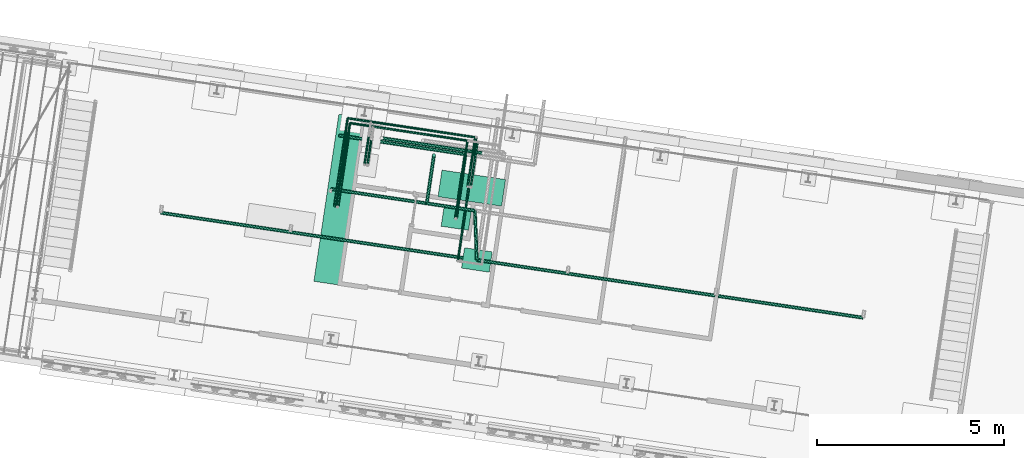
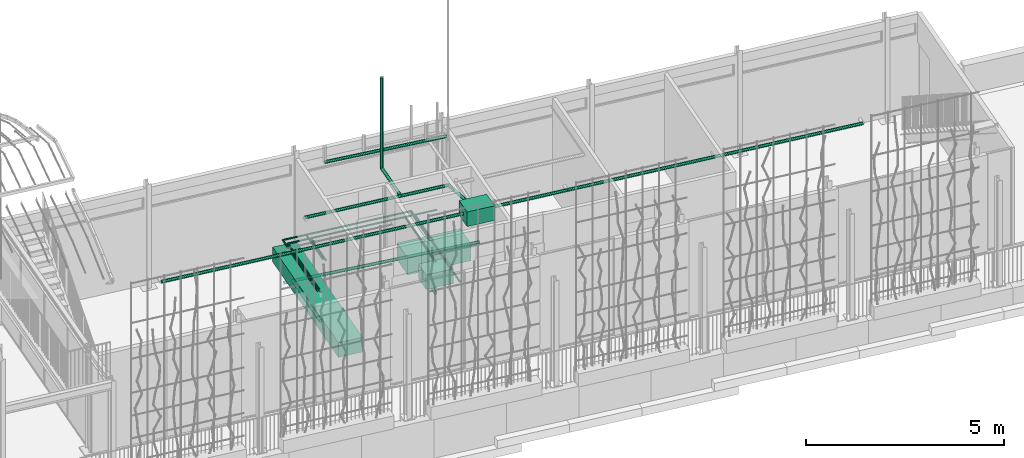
# One storey, part 136 of 142: 18 pipe segments, 10 duct segments, 3 sanitary terminals, 1 air to air heat recovery element.
"""IFC4 building model written with IfcOpenShell, lengths in metres."""

from ifc_helpers import new_model, si_unit, direction, frame, origin_with_axes, place, context, subcontext, project, spatial, polyline, circle, outline, extrude, material, material_profile, profile_set, profile_usage, type_object, element, save


model = new_model("IFC4")

# Units and contexts
model_context = context("Model", 3, precision=1e-05, world=origin_with_axes(), true_north=direction((0.0, 1.0)))
body_context = subcontext(model_context, "Body", "Model", "MODEL_VIEW")
ifc_project = project(units=[si_unit("VOLUMEUNIT", "CUBIC_METRE"), si_unit("LENGTHUNIT", "METRE"), si_unit("AREAUNIT", "SQUARE_METRE")], contexts=[model_context])

# Site, building, storey
site_placement = place(None, origin_with_axes())
site = spatial("IfcSite", under=ifc_project, at=site_placement, Name="Lares · Rua das Mercês · artigo 4771")
building_placement = place(site_placement, frame((12.0, 10.2, 13.9), z_axis=(0.0, 0.0, 1.0), x_axis=(0.989015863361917, -0.147809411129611, 0.0)))
building = spatial("IfcBuilding", under=site, at=building_placement, Name="Casa Sobreposta")
storey_placement = place(building_placement, origin_with_axes())
storey = spatial("IfcBuildingStorey", under=building, at=storey_placement, Name="00 · Habitação e estacionamento", Elevation=13.9)

# Pipe segments
ifc_material_1 = material(Name="cold · traçado de estudo", Category="schematic services")
ifc_material_profile_1 = material_profile(ifc_material_1, circle(Radius=0.025))
ifc_profile_set_1 = profile_set([ifc_material_profile_1], Name="D0.05")
ifc_profile_usage_1 = profile_usage(ifc_profile_set_1)
pipe_segment_type_1 = type_object("IfcPipeSegmentType", Name="D0.05 / cold", PredefinedType="NOTDEFINED", material=ifc_profile_set_1)
pipe_segment_1_placement = place(storey_placement, frame((11.7, 5.92, 0.6), z_axis=(-1.0, 0.0, 0.0), x_axis=(0.0, 1.0, 0.0)))
element("IfcPipeSegment", 1, at=pipe_segment_1_placement, inside=storey, type_object=pipe_segment_type_1, material=ifc_profile_usage_1, Name="AF · Lava-loiça", context=body_context, shape_type="SweptSolid", body=[
    extrude(circle(Radius=0.025), origin_with_axes(), (0.0, 0.0, 1.0), 4.05),
])
ifc_profile_usage_2 = profile_usage(ifc_profile_set_1)
pipe_segment_2_placement = place(storey_placement, frame((7.65, 5.92, 0.6), z_axis=(0.0, -1.0, 0.0), x_axis=(-1.0, 0.0, 0.0)))
element("IfcPipeSegment", 2, at=pipe_segment_2_placement, inside=storey, type_object=pipe_segment_type_1, material=ifc_profile_usage_2, Name="AF · Lava-loiça", context=body_context, shape_type="SweptSolid", body=[
    extrude(circle(Radius=0.025), origin_with_axes(), (0.0, 0.0, 1.0), 2.27),
])
ifc_profile_usage_3 = profile_usage(ifc_profile_set_1)
pipe_segment_3_placement = place(storey_placement, frame((11.7, 5.92, 0.6), z_axis=(-1.0, 0.0, 0.0), x_axis=(0.0, 1.0, 0.0)))
element("IfcPipeSegment", 3, at=pipe_segment_3_placement, inside=storey, type_object=pipe_segment_type_1, material=ifc_profile_usage_3, Name="AF · Lavatório 1", context=body_context, shape_type="SweptSolid", body=[
    extrude(circle(Radius=0.025), origin_with_axes(), (0.0, 0.0, 1.0), 3.42),
])
ifc_profile_usage_4 = profile_usage(ifc_profile_set_1)
pipe_segment_4_placement = place(storey_placement, frame((8.28, 5.92, 0.6), z_axis=(0.0, -1.0, 0.0), x_axis=(-1.0, 0.0, 0.0)))
element("IfcPipeSegment", 4, at=pipe_segment_4_placement, inside=storey, type_object=pipe_segment_type_1, material=ifc_profile_usage_4, Name="AF · Lavatório 1", context=body_context, shape_type="SweptSolid", body=[
    extrude(circle(Radius=0.025), origin_with_axes(), (0.0, 0.0, 1.0), 1.04),
])
ifc_profile_usage_5 = profile_usage(ifc_profile_set_1)
pipe_segment_5_placement = place(storey_placement, frame((11.1, 5.92, 0.6), z_axis=(0.0, -1.0, 0.0), x_axis=(-1.0, 0.0, 0.0)))
element("IfcPipeSegment", 5, at=pipe_segment_5_placement, inside=storey, type_object=pipe_segment_type_1, material=ifc_profile_usage_5, Name="AF · Banheira", context=body_context, shape_type="SweptSolid", body=[
    extrude(circle(Radius=0.025), origin_with_axes(), (0.0, 0.0, 1.0), 1.22),
])
ifc_profile_usage_6 = profile_usage(ifc_profile_set_1)
pipe_segment_6_placement = place(storey_placement, frame((10.83, 5.92, 0.6), z_axis=(0.0, -1.0, 0.0), x_axis=(-1.0, 0.0, 0.0)))
element("IfcPipeSegment", 6, at=pipe_segment_6_placement, inside=storey, type_object=pipe_segment_type_1, material=ifc_profile_usage_6, Name="AF · Sanita", context=body_context, shape_type="SweptSolid", body=[
    extrude(circle(Radius=0.025), origin_with_axes(), (0.0, 0.0, 1.0), 2.11),
])
ifc_material_2 = material(Name="hot · traçado de estudo", Category="schematic services")
ifc_material_profile_2 = material_profile(ifc_material_2, circle(Radius=0.025))
ifc_profile_set_2 = profile_set([ifc_material_profile_2], Name="D0.05")
ifc_profile_usage_7 = profile_usage(ifc_profile_set_2)
pipe_segment_type_2 = type_object("IfcPipeSegmentType", Name="D0.05 / hot", PredefinedType="NOTDEFINED", material=ifc_profile_set_2)
pipe_segment_7_placement = place(storey_placement, frame((11.05, 2.7, 0.65), z_axis=(0.0, 1.0, 0.0), x_axis=(1.0, 0.0, 0.0)))
element("IfcPipeSegment", 7, at=pipe_segment_7_placement, inside=storey, type_object=pipe_segment_type_2, material=ifc_profile_usage_7, Name="AQ · Lava-loiça", context=body_context, shape_type="SweptSolid", body=[
    extrude(circle(Radius=0.025), origin_with_axes(), (0.0, 0.0, 1.0), 3.34),
])
ifc_profile_usage_8 = profile_usage(ifc_profile_set_2)
pipe_segment_8_placement = place(storey_placement, frame((11.05, 6.04, 0.65), z_axis=(-1.0, 0.0, 0.0), x_axis=(0.0, 1.0, 0.0)))
element("IfcPipeSegment", 8, at=pipe_segment_8_placement, inside=storey, type_object=pipe_segment_type_2, material=ifc_profile_usage_8, Name="AQ · Lava-loiça", context=body_context, shape_type="SweptSolid", body=[
    extrude(circle(Radius=0.025), origin_with_axes(), (0.0, 0.0, 1.0), 3.48),
])
ifc_profile_usage_9 = profile_usage(ifc_profile_set_2)
pipe_segment_9_placement = place(storey_placement, frame((7.57, 6.04, 0.65), z_axis=(0.0, -1.0, 0.0), x_axis=(-1.0, 0.0, 0.0)))
element("IfcPipeSegment", 9, at=pipe_segment_9_placement, inside=storey, type_object=pipe_segment_type_2, material=ifc_profile_usage_9, Name="AQ · Lava-loiça", context=body_context, shape_type="SweptSolid", body=[
    extrude(circle(Radius=0.025), origin_with_axes(), (0.0, 0.0, 1.0), 2.39),
])
ifc_profile_usage_10 = profile_usage(ifc_profile_set_2)
pipe_segment_10_placement = place(storey_placement, frame((11.05, 6.04, 0.65), z_axis=(-1.0, 0.0, 0.0), x_axis=(0.0, 1.0, 0.0)))
element("IfcPipeSegment", 10, at=pipe_segment_10_placement, inside=storey, type_object=pipe_segment_type_2, material=ifc_profile_usage_10, Name="AQ · Lavatório 1", context=body_context, shape_type="SweptSolid", body=[
    extrude(circle(Radius=0.025), origin_with_axes(), (0.0, 0.0, 1.0), 2.85),
])
ifc_profile_usage_11 = profile_usage(ifc_profile_set_2)
pipe_segment_11_placement = place(storey_placement, frame((8.2, 6.04, 0.65), z_axis=(0.0, -1.0, 0.0), x_axis=(-1.0, 0.0, 0.0)))
element("IfcPipeSegment", 11, at=pipe_segment_11_placement, inside=storey, type_object=pipe_segment_type_2, material=ifc_profile_usage_11, Name="AQ · Lavatório 1", context=body_context, shape_type="SweptSolid", body=[
    extrude(circle(Radius=0.025), origin_with_axes(), (0.0, 0.0, 1.0), 1.16),
])
ifc_profile_usage_12 = profile_usage(ifc_profile_set_2)
pipe_segment_12_placement = place(storey_placement, frame((11.02, 6.04, 0.65), z_axis=(0.0, -1.0, 0.0), x_axis=(-1.0, 0.0, 0.0)))
element("IfcPipeSegment", 12, at=pipe_segment_12_placement, inside=storey, type_object=pipe_segment_type_2, material=ifc_profile_usage_12, Name="AQ · Banheira", context=body_context, shape_type="SweptSolid", body=[
    extrude(circle(Radius=0.025), origin_with_axes(), (0.0, 0.0, 1.0), 1.34),
])
ifc_material_3 = material(Name="waste · traçado de estudo", Category="schematic services")
ifc_material_profile_3 = material_profile(ifc_material_3, circle(Radius=0.045))
ifc_profile_set_3 = profile_set([ifc_material_profile_3], Name="D0.09")
ifc_profile_usage_13 = profile_usage(ifc_profile_set_3)
pipe_segment_type_3 = type_object("IfcPipeSegmentType", Name="D0.09 / waste", PredefinedType="NOTDEFINED", material=ifc_profile_set_3)
pipe_segment_13_placement = place(storey_placement, frame((7.65, 3.65, -0.305), z_axis=(0.0, 1.0, 0.0), x_axis=(1.0, 0.0, 0.0)))
element("IfcPipeSegment", 13, at=pipe_segment_13_placement, inside=storey, type_object=pipe_segment_type_3, material=ifc_profile_usage_13, Name="Esgoto · Lava-loiça", context=body_context, shape_type="SweptSolid", body=[
    extrude(circle(Radius=0.045), origin_with_axes(), (0.0, 0.0, 1.0), 1.9),
])
ifc_profile_usage_14 = profile_usage(ifc_profile_set_3)
pipe_segment_14_placement = place(storey_placement, frame((7.65, 5.55, -0.305), z_axis=(0.999800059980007, 0.0, -0.0199960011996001), x_axis=(0.0, -1.0, 0.0)))
element("IfcPipeSegment", 14, at=pipe_segment_14_placement, inside=storey, type_object=pipe_segment_type_3, material=ifc_profile_usage_14, Name="Esgoto · Lava-loiça", context=body_context, shape_type="SweptSolid", body=[
    extrude(circle(Radius=0.045), origin_with_axes(), (0.0, 0.0, 1.0), 5.05100989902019),
])
ifc_profile_usage_15 = profile_usage(ifc_profile_set_3)
pipe_segment_15_placement = place(storey_placement, frame((8.28, 5.55, -0.3176), z_axis=(0.999800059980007, 0.0, -0.0199960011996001), x_axis=(0.0, -1.0, 0.0)))
element("IfcPipeSegment", 15, at=pipe_segment_15_placement, inside=storey, type_object=pipe_segment_type_3, material=ifc_profile_usage_15, Name="Esgoto · Lavatório 1", context=body_context, shape_type="SweptSolid", body=[
    extrude(circle(Radius=0.045), origin_with_axes(), (0.0, 0.0, 1.0), 4.42088391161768),
])
ifc_profile_usage_16 = profile_usage(ifc_profile_set_3)
pipe_segment_16_placement = place(storey_placement, frame((10.83, 3.81, -0.3686), z_axis=(0.0, 1.0, 0.0), x_axis=(1.0, 0.0, 0.0)))
element("IfcPipeSegment", 16, at=pipe_segment_16_placement, inside=storey, type_object=pipe_segment_type_3, material=ifc_profile_usage_16, Name="Esgoto · Sanita", context=body_context, shape_type="SweptSolid", body=[
    extrude(circle(Radius=0.045), origin_with_axes(), (0.0, 0.0, 1.0), 1.74),
])
ifc_profile_usage_17 = profile_usage(ifc_profile_set_3)
pipe_segment_17_placement = place(storey_placement, frame((7.4, 5.55, -0.3), z_axis=(0.999800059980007, 0.0, -0.0199960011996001), x_axis=(0.0, -1.0, 0.0)))
element("IfcPipeSegment", 17, at=pipe_segment_17_placement, inside=storey, type_object=pipe_segment_type_3, material=ifc_profile_usage_17, Name="Colector → caixa exterior", context=body_context, shape_type="SweptSolid", body=[
    extrude(circle(Radius=0.045), origin_with_axes(), (0.0, 0.0, 1.0), 5.30105989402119),
])
ifc_profile_usage_18 = profile_usage(ifc_profile_set_3)
pipe_segment_18_placement = place(storey_placement, frame((8.55, 5.65, 3.05), z_axis=(0.999885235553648, 0.0, -0.0151497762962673), x_axis=(0.0, -1.0, 0.0)))
element("IfcPipeSegment", 18, at=pipe_segment_18_placement, inside=storey, type_object=pipe_segment_type_3, material=ifc_profile_usage_18, Name="Esgoto · banho superior · Lavatório", context=body_context, shape_type="SweptSolid", body=[
    extrude(circle(Radius=0.045), origin_with_axes(), (0.0, 0.0, 1.0), 3.30037876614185),
])

# Duct segments
ifc_material_4 = material(Name="supply · traçado de estudo", Category="schematic services")
ifc_material_profile_4 = material_profile(ifc_material_4, circle(Radius=0.045))
ifc_profile_set_4 = profile_set([ifc_material_profile_4], Name="D0.09")
ifc_profile_usage_19 = profile_usage(ifc_profile_set_4)
duct_segment_type_1 = type_object("IfcDuctSegmentType", Name="D0.09 / supply", PredefinedType="NOTDEFINED", material=ifc_profile_set_4)
duct_segment_1_placement = place(storey_placement, frame((11.55, 2.8, 2.65), z_axis=(-1.0, 0.0, 0.0), x_axis=(0.0, 1.0, 0.0)))
element("IfcDuctSegment", 19, at=duct_segment_1_placement, inside=storey, type_object=duct_segment_type_1, material=ifc_profile_usage_19, Name="VMC · insuflação", context=body_context, shape_type="SweptSolid", body=[
    extrude(circle(Radius=0.045), origin_with_axes(), (0.0, 0.0, 1.0), 8.55),
])
ifc_profile_usage_20 = profile_usage(ifc_profile_set_4)
duct_segment_2_placement = place(storey_placement, frame((11.55, 2.8, 2.65), z_axis=(-1.0, 0.0, 0.0), x_axis=(0.0, 1.0, 0.0)))
element("IfcDuctSegment", 20, at=duct_segment_2_placement, inside=storey, type_object=duct_segment_type_1, material=ifc_profile_usage_20, Name="VMC · insuflação", context=body_context, shape_type="SweptSolid", body=[
    extrude(circle(Radius=0.045), origin_with_axes(), (0.0, 0.0, 1.0), 5.05),
])
ifc_profile_usage_21 = profile_usage(ifc_profile_set_4)
duct_segment_3_placement = place(storey_placement, frame((11.55, 2.8, 2.65), z_axis=(1.0, 0.0, 0.0), x_axis=(0.0, -1.0, 0.0)))
element("IfcDuctSegment", 21, at=duct_segment_3_placement, inside=storey, type_object=duct_segment_type_1, material=ifc_profile_usage_21, Name="VMC · insuflação", context=body_context, shape_type="SweptSolid", body=[
    extrude(circle(Radius=0.045), origin_with_axes(), (0.0, 0.0, 1.0), 2.45),
])
ifc_profile_usage_22 = profile_usage(ifc_profile_set_4)
duct_segment_4_placement = place(storey_placement, frame((11.55, 2.8, 2.65), z_axis=(1.0, 0.0, 0.0), x_axis=(0.0, -1.0, 0.0)))
element("IfcDuctSegment", 22, at=duct_segment_4_placement, inside=storey, type_object=duct_segment_type_1, material=ifc_profile_usage_22, Name="VMC · insuflação", context=body_context, shape_type="SweptSolid", body=[
    extrude(circle(Radius=0.045), origin_with_axes(), (0.0, 0.0, 1.0), 6.45),
])
ifc_profile_usage_23 = profile_usage(ifc_profile_set_4)
duct_segment_5_placement = place(storey_placement, frame((11.55, 2.8, 2.65), z_axis=(1.0, 0.0, 0.0), x_axis=(0.0, -1.0, 0.0)))
element("IfcDuctSegment", 23, at=duct_segment_5_placement, inside=storey, type_object=duct_segment_type_1, material=ifc_profile_usage_23, Name="VMC · insuflação", context=body_context, shape_type="SweptSolid", body=[
    extrude(circle(Radius=0.045), origin_with_axes(), (0.0, 0.0, 1.0), 10.45),
])
ifc_material_5 = material(Name="extract · traçado de estudo", Category="schematic services")
ifc_material_profile_5 = material_profile(ifc_material_5, circle(Radius=0.045))
ifc_profile_set_5 = profile_set([ifc_material_profile_5], Name="D0.09")
ifc_profile_usage_24 = profile_usage(ifc_profile_set_5)
duct_segment_type_2 = type_object("IfcDuctSegmentType", Name="D0.09 / extract", PredefinedType="NOTDEFINED", material=ifc_profile_set_5)
duct_segment_6_placement = place(storey_placement, frame((11.55, 2.8, 2.65), z_axis=(-0.188847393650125, 0.982006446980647, 0.0), x_axis=(0.982006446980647, 0.188847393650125, 0.0)))
element("IfcDuctSegment", 24, at=duct_segment_6_placement, inside=storey, type_object=duct_segment_type_2, material=ifc_profile_usage_24, Name="VMC · extração", context=body_context, shape_type="SweptSolid", body=[
    extrude(circle(Radius=0.045), origin_with_axes(), (0.0, 0.0, 1.0), 1.32382022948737),
])
ifc_profile_usage_25 = profile_usage(ifc_profile_set_5)
duct_segment_7_placement = place(storey_placement, frame((11.3, 4.1, 2.65), z_axis=(-1.0, 0.0, 0.0), x_axis=(0.0, 1.0, 0.0)))
element("IfcDuctSegment", 25, at=duct_segment_7_placement, inside=storey, type_object=duct_segment_type_2, material=ifc_profile_usage_25, Name="VMC · extração", context=body_context, shape_type="SweptSolid", body=[
    extrude(circle(Radius=0.045), origin_with_axes(), (0.0, 0.0, 1.0), 3.9),
])
ifc_profile_usage_26 = profile_usage(ifc_profile_set_5)
duct_segment_8_placement = place(storey_placement, frame((11.3, 4.1, 2.65), z_axis=(-1.0, 0.0, 0.0), x_axis=(0.0, 1.0, 0.0)))
element("IfcDuctSegment", 26, at=duct_segment_8_placement, inside=storey, type_object=duct_segment_type_2, material=ifc_profile_usage_26, Name="VMC · extração", context=body_context, shape_type="SweptSolid", body=[
    extrude(circle(Radius=0.045), origin_with_axes(), (0.0, 0.0, 1.0), 1.3),
])
ifc_profile_usage_27 = profile_usage(ifc_profile_set_5)
duct_segment_9_placement = place(storey_placement, frame((10.0, 4.1, 2.65), z_axis=(0.0, 1.0, 0.0), x_axis=(1.0, 0.0, 0.0)))
element("IfcDuctSegment", 27, at=duct_segment_9_placement, inside=storey, type_object=duct_segment_type_2, material=ifc_profile_usage_27, Name="VMC · extração", context=body_context, shape_type="SweptSolid", body=[
    extrude(circle(Radius=0.045), origin_with_axes(), (0.0, 0.0, 1.0), 1.3),
])
ifc_profile_usage_28 = profile_usage(ifc_profile_set_5)
duct_segment_10_placement = place(storey_placement, frame((10.0, 5.4, 2.65), z_axis=(0.0, 0.0, 1.0), x_axis=(1.0, 0.0, 0.0)))
element("IfcDuctSegment", 28, at=duct_segment_10_placement, inside=storey, type_object=duct_segment_type_2, material=ifc_profile_usage_28, Name="VMC · extração", context=body_context, shape_type="SweptSolid", body=[
    extrude(circle(Radius=0.045), origin_with_axes(), (0.0, 0.0, 1.0), 2.8),
])

# Sanitary terminals
ifc_material_6 = material(Name="Cerâmica sanitária — esquema", Category="ceramic")
sanitary_terminal_1_placement = place(storey_placement, origin_with_axes())
element("IfcSanitaryTerminal", 29, at=sanitary_terminal_1_placement, inside=storey, material=ifc_material_6, Name="Banheira", PredefinedType="BATH", context=body_context, shape_type="SweptSolid", body=[
    extrude(outline(polyline([(11.991, 4.32099999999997), (11.991, 5.041), (10.271, 5.041), (10.271, 4.32099999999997), (11.991, 4.32099999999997)])), origin_with_axes(), (0.0, 0.0, 1.0), 0.52),
])
sanitary_terminal_2_placement = place(storey_placement, origin_with_axes())
element("IfcSanitaryTerminal", 30, at=sanitary_terminal_2_placement, inside=storey, material=ifc_material_6, Name="Sanita", PredefinedType="TOILETPAN", context=body_context, shape_type="SweptSolid", body=[
    extrude(outline(polyline([(11.211, 3.55099999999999), (11.211, 4.07099999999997), (10.471, 4.07099999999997), (10.471, 3.55099999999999), (11.211, 3.55099999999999)])), origin_with_axes(), (0.0, 0.0, 1.0), 0.45),
])
sanitary_terminal_3_placement = place(storey_placement, origin_with_axes())
element("IfcSanitaryTerminal", 31, at=sanitary_terminal_3_placement, inside=storey, material=ifc_material_6, Name="Bancada de cozinha", PredefinedType="TOILETPAN", context=body_context, shape_type="SweptSolid", body=[
    extrude(outline(polyline([(7.98099999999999, 1.59100000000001), (7.98099999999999, 6.11099999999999), (7.32099999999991, 6.11099999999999), (7.32099999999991, 1.59100000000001), (7.98099999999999, 1.59100000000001)])), origin_with_axes(), (0.0, 0.0, 1.0), 0.45),
])

# Air to air heat recovery
ifc_material_7 = material(Name="Aço galvanizado / Stahl verzinkt", Category="steel")
air_to_air_heat_recovery_placement = place(storey_placement, frame((0.0, 0.0, 2.425), z_axis=(0.0, 0.0, 1.0), x_axis=(1.0, 0.0, 0.0)))
element("IfcAirToAirHeatRecovery", 32, at=air_to_air_heat_recovery_placement, inside=storey, material=ifc_material_7, Name="VMC com recuperação · esquema", PredefinedType="FIXEDPLATECOUNTERFLOWEXCHANGER", context=body_context, shape_type="SweptSolid", body=[
    extrude(outline(polyline([(11.925, 2.525), (11.925, 3.075), (11.175, 3.075), (11.175, 2.525), (11.925, 2.525)])), origin_with_axes(), (0.0, 0.0, 1.0), 0.45),
])

save(model, "model.ifc")
